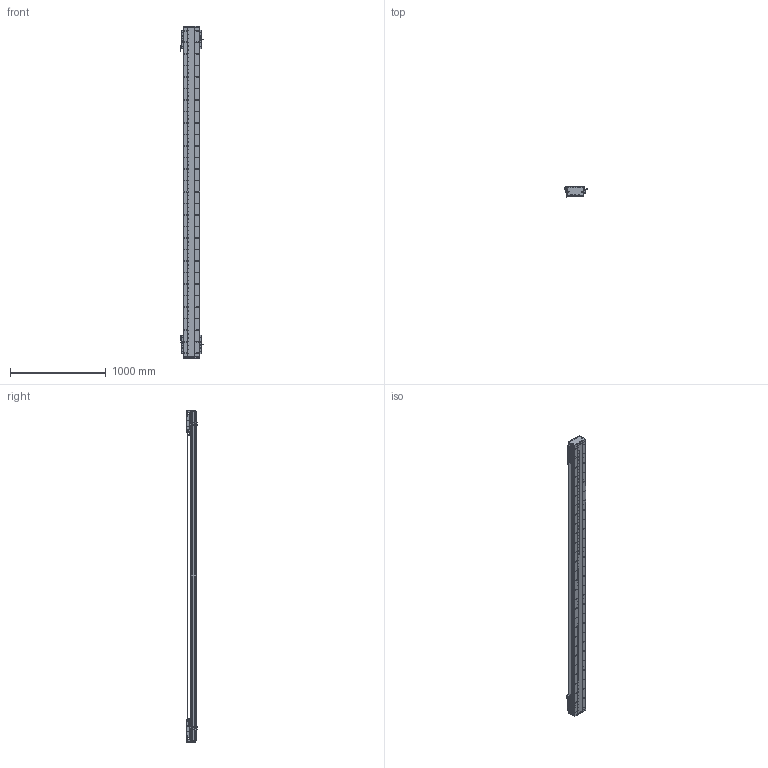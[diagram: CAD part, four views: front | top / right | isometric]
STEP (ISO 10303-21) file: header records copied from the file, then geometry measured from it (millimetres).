
FILE_DESCRIPTION (( 'STEP AP203' ), '1' );
FILE_NAME ('DA-C165-2-C2-T2960-C010-0.2 直线电机.STEP', '2023-05-11T08:32:43', ( '微软用户' ), ( '微软中国' ), 'SwSTEP 2.0', 'SolidWorks 2019', '' );
FILE_SCHEMA (( 'CONFIG_CONTROL_DESIGN' ));
Length unit declared in the file: millimetre
Products named in the file (22): 复件 DA165-GDLK-00 钢带拉块^复件 CU165钢带组件_DA-C165-C2-T-C010-0.2-N 直线电机; 复件 CU165钢带组件^DA-C165-C2-T-C010-0.2-N 直线电机; 复件 XD-U-02L 磁栅尺^DA-C165-C2-T-C010-0.2-N 直线电机_T; 复件 DA126-GYP-ZJ-00 中间光电感应片^DA-C165-C2-T-C010-0.2-N 直线电机; 复件 66338-1000-006-00 光电感应块^DA-C165-C2-T-C010-0.2-N 直线电机; 复件 DA165-GD-1860-002-00 钢带盖板^复件 CU165钢带组件_DA-C165-C2-T-C010-0.2-N 直线电机; 复件 DA165-GD-DG-H-00 端盖^复件 CU165钢带组件_DA-C165-C2-T-C010-0.2-N 直线电机; 复件 六角薄螺母 M3^DA-C165-C2-T-C010-0.2-N 直线电机_GB_FASTENER_NUT_STNAB M3-C; 复件 DA95-HXJ-00 缓冲橡胶^DA-C165-C2-T-C010-0.2-N 直线电机; IU-CU165-L-00 菁釱_L3420; 葩璃 CKM01-W075-TRL^DA-C165-C2-T-C010-0.2-N 眻盄萇儂; 复件 DA165-GYP-00 光电感应片^DA-C165-C2-T-C010-0.2-N 直线电机; 复件 DA165-GDYK-00 钢带压块^复件 CU165钢带组件_DA-C165-C2-T-C010-0.2-N 直线电机; 葩璃 PM-Y45^DA-C165-C2-T-C010-0.2-N 眻盄萇儂; 复件 CKM02-W075-C1C2-TP-3.0 一体电机-C2^DA-C165-C2-T-C010-0.2-N 直线电机; 复件 DKW-HXJ-JY-00 缓冲橡胶^DA-C165-C2-T-C010-0.2-N 直线电机; IU-CU165-L 菁釱絳寢; 葩璃 DA95-GT-T-00^IU-CU165-L 菁釱絳寢_T; 复件 DMA-010-0.2 读数头^DA-C165-C2-T-C010-0.2-N 直线电机; DA-C165-2-C2-T2960-C010-0.2 眻盄萇儂; 珨极趙賑雄怢啣wf-C2; 葩璃 PM-T45^DA-C165-C2-T-C010-0.2-N 眻盄萇儂
Assembly tree (43 placements, depth 3):
  DA-C165-2-C2-T2960-C010-0.2 眻盄萇儂
    IU-CU165-L 菁釱絳寢
      IU-CU165-L-00 菁釱_L3420
      葩璃 DA95-GT-T-00^IU-CU165-L 菁釱絳寢_T  x4
    复件 XD-U-02L 磁栅尺^DA-C165-C2-T-C010-0.2-N 直线电机_T
    葩璃 PM-T45^DA-C165-C2-T-C010-0.2-N 眻盄萇儂  x4
    葩璃 CKM01-W075-TRL^DA-C165-C2-T-C010-0.2-N 眻盄萇儂
    复件 CU165钢带组件^DA-C165-C2-T-C010-0.2-N 直线电机
      复件 DA165-GD-DG-H-00 端盖^复件 CU165钢带组件_DA-C165-C2-T-C010-0.2-N 直线电机  x2
      复件 DA165-GDYK-00 钢带压块^复件 CU165钢带组件_DA-C165-C2-T-C010-0.2-N 直线电机  x2
      复件 DA165-GD-1860-002-00 钢带盖板^复件 CU165钢带组件_DA-C165-C2-T-C010-0.2-N 直线电机
      复件 DA165-GDLK-00 钢带拉块^复件 CU165钢带组件_DA-C165-C2-T-C010-0.2-N 直线电机  x2
    复件 DA95-HXJ-00 缓冲橡胶^DA-C165-C2-T-C010-0.2-N 直线电机  x4
    复件 CKM02-W075-C1C2-TP-3.0 一体电机-C2^DA-C165-C2-T-C010-0.2-N 直线电机  x2
    复件 DMA-010-0.2 读数头^DA-C165-C2-T-C010-0.2-N 直线电机  x2
    复件 DA165-GYP-00 光电感应片^DA-C165-C2-T-C010-0.2-N 直线电机  x2
    复件 66338-1000-006-00 光电感应块^DA-C165-C2-T-C010-0.2-N 直线电机
    葩璃 PM-Y45^DA-C165-C2-T-C010-0.2-N 眻盄萇儂
    复件 DA126-GYP-ZJ-00 中间光电感应片^DA-C165-C2-T-C010-0.2-N 直线电机
    复件 DKW-HXJ-JY-00 缓冲橡胶^DA-C165-C2-T-C010-0.2-N 直线电机  x2
    复件 六角薄螺母 M3^DA-C165-C2-T-C010-0.2-N 直线电机_GB_FASTENER_NUT_STNAB M3-C  x6
    珨极趙賑雄怢啣wf-C2  x2
Bounding box: 247.2 x 111.45 x 3460 mm (x, y, z)
Volume: 20166134.3 mm3; surface area: 5977026.6 mm2
Topology: 119 solids, 119 shells, 6079 faces, 17492 edges, 11106 vertices
Faces by surface type: cylinder 3452, plane 1835, cone 704, torus 80, sphere 8
Entity records: 157654 total; most frequent: CARTESIAN_POINT 44175, ORIENTED_EDGE 23928, DIRECTION 22544, EDGE_CURVE 11964, AXIS2_PLACEMENT_3D 8606, VERTEX_POINT 7843, EDGE_LOOP 5391, LINE 5332
